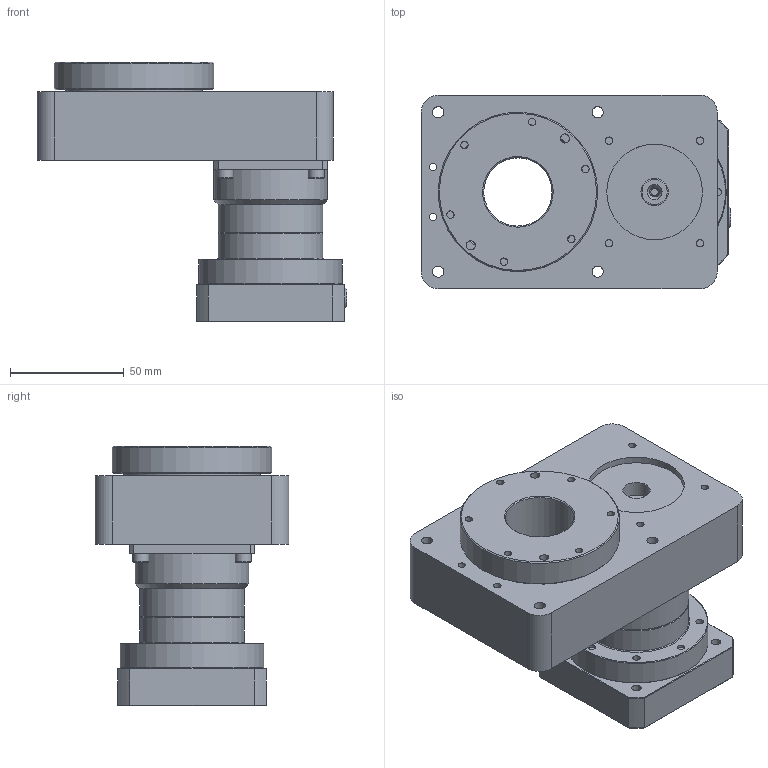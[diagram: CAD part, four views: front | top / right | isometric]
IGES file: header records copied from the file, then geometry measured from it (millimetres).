
Global section: file name: No Iges File Name specified; native system: Autodesk Inventor 2012; preprocessor: AutoDesk Inventor Iges Exporter R2012; author: disegnatore3; date: 20170117.134303; units: millimetre
Bounding box: 136 x 85 x 114 mm (x, y, z)
Volume: 490450.4 mm3; surface area: 96269 mm2
Topology: 17 solids, 17 shells, 491 faces, 1038 edges, 671 vertices
Faces by surface type: plane 226, revolution 164, cylinder 47, cone 40, torus 14
Full cylindrical faces by diameter (mm): 3 x1, 4 x12, 5.5 x1, 7 x12, 12 x1, 14 x1, 35 x1, 46 x2, 50 x1, 60 x1, 63 x1, 70 x1
